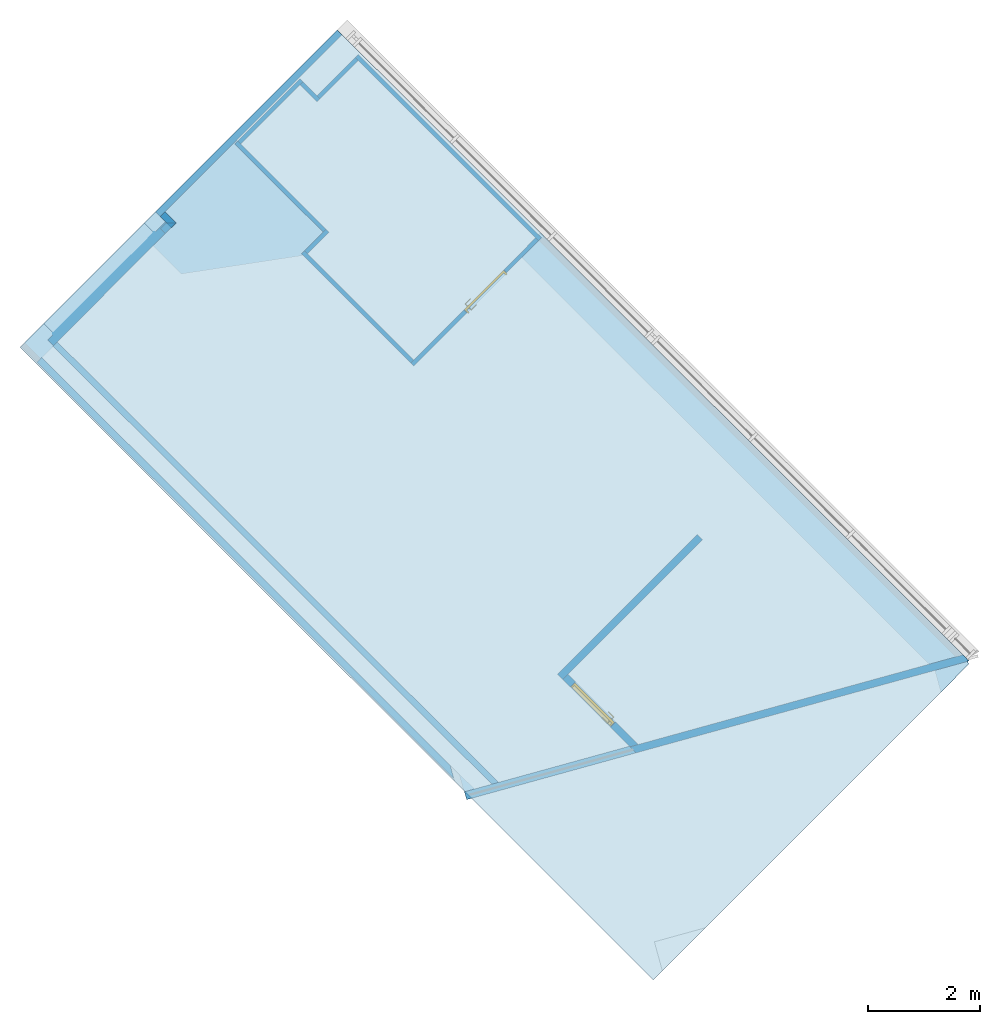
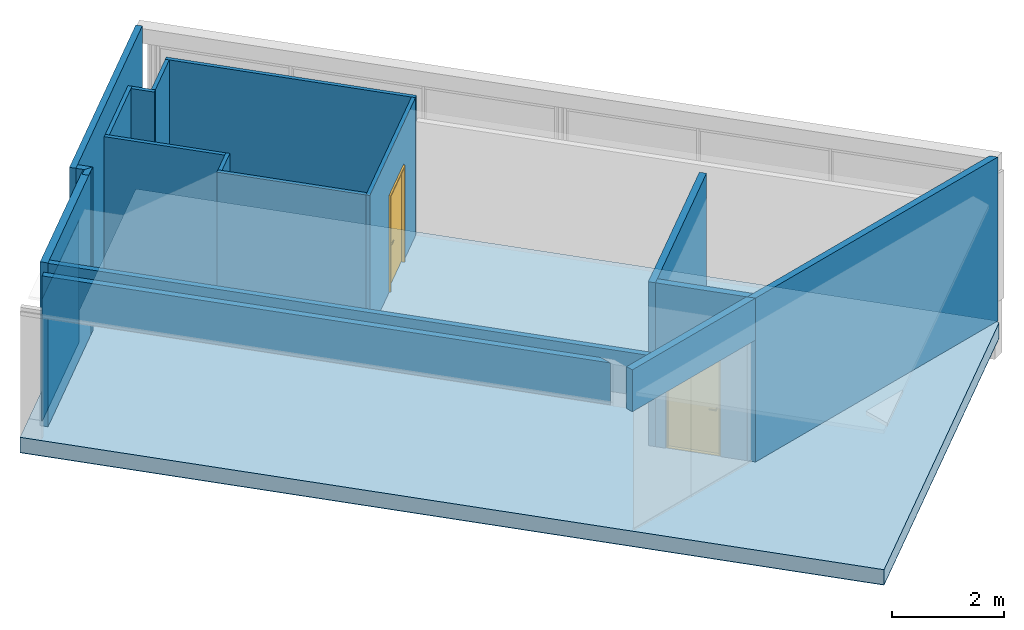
# One storey, part 3 of 6: 20 walls, 4 slabs, 2 doors, 3 openings.
"""IFC2X3 building model written with IfcOpenShell, lengths in millimetres."""

from ifc_helpers import new_model, entity, si_unit, converted_unit, derived_unit, direction, frame, frame_2d, origin, origin_with_axes, origin_2d_with_axis, place, context, subcontext, project, spatial, polyline, rectangle, outline, extrude, faceted_brep, source, transform, mapped, material, material_list, layer, layer_set, layer_usage, type_object, element, fill, save


model = new_model("IFC2X3")

# Units and contexts
model_context = context("Model", 3, precision=0.01, world=origin(), true_north=direction((6.12323399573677e-17, 1.0)))
plan_context = context("Plan", 3, precision=1e-05, world=origin_with_axes())
body_context = subcontext(model_context, "Body", "Model", "MODEL_VIEW")
ifc_project = project(units=[converted_unit("PLANEANGLEUNIT", "DEGREE", entity("IfcPositiveLengthMeasure", 0.0174532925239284), si_unit("PLANEANGLEUNIT", "RADIAN"), dimensions=[0, 0, 0, 0, 0, 0, 0]), si_unit("AREAUNIT", "SQUARE_METRE"), si_unit("LENGTHUNIT", "METRE", prefix="MILLI"), si_unit("MASSUNIT", "GRAM", prefix="KILO"), si_unit("POWERUNIT", "WATT"), si_unit("PRESSUREUNIT", "PASCAL", prefix="KILO"), si_unit("FORCEUNIT", "NEWTON", prefix="KILO"), si_unit("ELECTRICVOLTAGEUNIT", "VOLT"), si_unit("ELECTRICCURRENTUNIT", "AMPERE"), si_unit("THERMODYNAMICTEMPERATUREUNIT", "DEGREE_CELSIUS"), si_unit("TIMEUNIT", "SECOND"), si_unit("VOLUMEUNIT", "CUBIC_METRE"), derived_unit("LINEARVELOCITYUNIT", [(si_unit("LENGTHUNIT", "METRE"), 1), (si_unit("TIMEUNIT", "SECOND"), -1)]), derived_unit("VOLUMETRICFLOWRATEUNIT", [(si_unit("VOLUMEUNIT", "CUBIC_METRE"), 1), (si_unit("TIMEUNIT", "SECOND"), -1)]), derived_unit("THERMALTRANSMITTANCEUNIT", [(si_unit("POWERUNIT", "WATT"), 1), (si_unit("THERMODYNAMICTEMPERATUREUNIT", "KELVIN"), -1), (si_unit("AREAUNIT", "SQUARE_METRE"), -1)]), derived_unit("SOUNDPRESSUREUNIT", [(si_unit("PRESSUREUNIT", "PASCAL"), 1)])], contexts=[model_context, plan_context])

# Site, building, storey
site_placement = place(None, frame((0.0, -2.21771188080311e-09, 0.0), z_axis=(0.0, 0.0, 1.0), x_axis=(0.266093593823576, -0.963947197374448, 0.0)))
site = spatial("IfcSite", under=ifc_project, at=site_placement, Name="ENZV", CompositionType="ELEMENT")
building_placement = place(site_placement, origin_with_axes())
building = spatial("IfcBuilding", under=site, at=building_placement, Name="ZV001", CompositionType="ELEMENT")
storey_placement = place(building_placement, frame((0.0, 0.0, 9300.0), z_axis=(0.0, 0.0, 1.0), x_axis=(1.0, 0.0, 0.0)))
storey = spatial("IfcBuildingStorey", under=building, at=storey_placement, Name="H02", CompositionType="ELEMENT", Elevation=9300.0)

# Slabs
ifc_material_1 = material(Name="Hvit")
ifc_layer_1 = layer(ifc_material_1, 325.0)
ifc_layer_set_1 = layer_set([ifc_layer_1], Name="Floor:Standard 325mm")
slab_type_1 = type_object("IfcSlabType", Name="Floor:Standard 325mm", PredefinedType="FLOOR", material=ifc_layer_set_1)
slab_1_placement = place(storey_placement, origin_with_axes())
element("IfcSlab", 1, at=slab_1_placement, inside=storey, type_object=slab_type_1, Name="Floor:Standard 325mm", ObjectType="Floor:Standard 325mm", PredefinedType="FLOOR", context=body_context, shape_type="Brep", body=[
    faceted_brep([(-264113.047522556, 426855.208712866, -15.0), (-264113.047522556, 426855.208712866, -340.0), (-250352.832725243, 434675.434974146, -340.0), (-250352.832725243, 434675.434974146, -15.0), (-250247.640295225, 434675.434974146, -340.0), (-250247.640295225, 434675.434974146, -15.0), (-246328.485877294, 427779.41882218, -15.0), (-260168.211843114, 419914.004651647, -14.9999999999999), (-260168.211843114, 419914.004651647, -340.0), (-246328.485877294, 427779.41882218, -340.0)], [[[0, 1, 2, 3]], [[4, 5, 3, 2]], [[5, 6, 7, 0, 3]], [[1, 8, 9, 4, 2]], [[6, 5, 4, 9]], [[8, 1, 0, 7]], [[7, 6, 9, 8]]], orient=[[False], [False], [False], [False], [False], [False], [False]]),
])
ifc_material_2 = material(Name="Fliser 600x600mm mørk grå")
ifc_layer_2 = layer(ifc_material_2, 15.0)
ifc_layer_set_2 = layer_set([ifc_layer_2], Name="Floor:ENZV_G04_Flis mørk grå 6x6M")
slab_type_2 = type_object("IfcSlabType", Name="Floor:ENZV_G04_Flis mørk grå 6x6M", PredefinedType="FLOOR", material=ifc_layer_set_2)
slab_2_placement = place(storey_placement, origin_with_axes())
element("IfcSlab", 2, at=slab_2_placement, inside=storey, type_object=slab_type_2, Name="Floor:ENZV_G04_Flis mørk grå 6x6M", ObjectType="Floor:ENZV_G04_Flis mørk grå 6x6M", PredefinedType="FLOOR", context=body_context, shape_type="Brep", body=[
    faceted_brep([(-261714.229501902, 422634.326846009, 0.0), (-261714.229501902, 422634.326846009, -14.9999999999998), (-261503.411934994, 422754.155558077, -14.9999999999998), (-261503.411934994, 422754.155558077, 0.0), (-260253.284899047, 420554.465531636, -14.9999999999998), (-260253.284899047, 420554.465531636, 0.0), (-260464.106435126, 420434.651114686, -14.9999999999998), (-260464.106435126, 420434.651114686, 0.0)], [[[0, 1, 2, 3]], [[3, 2, 4, 5]], [[6, 7, 5, 4]], [[7, 0, 3, 5]], [[1, 6, 4, 2]], [[7, 6, 1, 0]]], orient=[[False], [False], [False], [False], [False], [False]]),
])
ifc_material_3 = material(Name="Betong - Plasstøpt")
ifc_layer_3 = layer(ifc_material_3, 330.0)
ifc_layer_set_3 = layer_set([ifc_layer_3], Name="Floor:Standard 330mm betong")
slab_type_3 = type_object("IfcSlabType", Name="Floor:Standard 330mm betong", PredefinedType="FLOOR", material=ifc_layer_set_3)
for number, where, z_axis, x_axis, name in (
    (3, (0.0, 0.0, 0.0), (0.0, 0.0, 1.0), (1.0, 0.0, 0.0), "Floor:Standard 330mm betong"),
    (4, (0.0, 0.0, 0.0), (0.0, 0.0, 1.0), (1.0, 0.0, 0.0), "Floor:Standard 330mm betong"),
):
    element("IfcSlab", number, at=place(storey_placement, frame(where, z_axis=z_axis, x_axis=x_axis)), inside=storey, type_object=slab_type_3, Name=name, ObjectType="Floor:Standard 330mm betong", PredefinedType="FLOOR", context=body_context, shape_type="Brep", body=[
        faceted_brep([(-264113.047522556, 426855.208712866, 0.0), (-264113.047522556, 426855.208712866, -330.0), (-250352.832725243, 434675.434974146, -330.0), (-250352.832725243, 434675.434974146, 0.0), (-250247.640295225, 434675.434974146, -330.0), (-250247.640295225, 434675.434974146, 0.0), (-246328.485877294, 427779.41882218, -1.13686837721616e-13), (-260168.211843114, 419914.004651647, -1.13686837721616e-13), (-260168.211843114, 419914.004651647, -330.0), (-246328.485877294, 427779.41882218, -330.0)], [[[0, 1, 2, 3]], [[4, 5, 3, 2]], [[5, 6, 7, 0, 3]], [[1, 8, 9, 4, 2]], [[6, 5, 4, 9]], [[8, 1, 0, 7]], [[7, 6, 9, 8]]], orient=[[False], [False], [False], [False], [False], [False], [False]]),
    ])

# Walls
ifc_material_4 = material(Name="A246.Gips 12.5mm fiberarmert -QK5.31112")
ifc_layer_4 = layer(ifc_material_4, 13.0)
ifc_material_5 = material(Name="OSB plate")
ifc_layer_5 = layer(ifc_material_5, 12.0)
ifc_material_6 = material(Name="A242.Stender Lettmetall 95mm -PJ3.111002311")
ifc_layer_6 = layer(ifc_material_6, 70.0)
ifc_layer_7 = layer(ifc_material_5, 12.0)
ifc_layer_8 = layer(ifc_material_4, 13.0)
ifc_layer_set_4 = layer_set([ifc_layer_4, ifc_layer_5, ifc_layer_6, ifc_layer_7, ifc_layer_8], Name="Basic Wall:ENZV_S-UK01_S70_120mm_OSBG")
ifc_layer_usage_1 = layer_usage(ifc_layer_set_4, "AXIS2", "NEGATIVE", 60.0)
wall_type_1 = type_object("IfcWallType", Name="Basic Wall:ENZV_S-UK01_S70_120mm_OSBG", PredefinedType="STANDARD", material=ifc_layer_set_4)
wall_1_placement = place(storey_placement, frame((-259866.534533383, 420187.651644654, 2650.0), z_axis=(0.0, 0.0, 1.0), x_axis=(0.869405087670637, 0.494099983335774, 0.0)))
element("IfcWallStandardCase", 5, at=wall_1_placement, inside=storey, type_object=wall_type_1, material=ifc_layer_usage_1, Name="Basic Wall:ENZV_S-UK01_S70_120mm_OSBG", ObjectType="Basic Wall:ENZV_S-UK01_S70_120mm_OSBG", context=body_context, shape_type="SweptSolid", body=[
    extrude(outline(polyline([(10474.0967859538, -60.0), (10262.9480022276, 60.0), (0.0, 60.0), (0.0, -60.0), (10474.0967859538, -60.0)])), origin(), (0.0, 0.0, 1.0), 909.999999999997),
])
ifc_layer_9 = layer(ifc_material_4, 13.0)
ifc_layer_10 = layer(ifc_material_6, 95.0)
ifc_layer_11 = layer(ifc_material_5, 12.0)
ifc_layer_12 = layer(ifc_material_4, 13.0)
ifc_layer_set_5 = layer_set([ifc_layer_9, ifc_layer_10, ifc_layer_11, ifc_layer_12], Name="Basic Wall:ENZV_IV-UK02B_S95_145mm_OSBG+G")
ifc_layer_usage_2 = layer_usage(ifc_layer_set_5, "AXIS2", "POSITIVE", -66.5)
wall_type_2 = type_object("IfcWallType", Name="Basic Wall:ENZV_IV-UK02B_S95_145mm_OSBG+G", PredefinedType="STANDARD", material=ifc_layer_set_5)
wall_2_placement = place(storey_placement, frame((-250370.362367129, 434703.26588279, 0.0), z_axis=(0.0, 0.0, 1.0), x_axis=(0.0, -1.0, 0.0)))
element("IfcWallStandardCase", 6, at=wall_2_placement, inside=storey, type_object=wall_type_2, material=ifc_layer_usage_2, Name="Basic Wall:ENZV_IV-UK02B_S95_145mm_OSBG+G", ObjectType="Basic Wall:ENZV_IV-UK02B_S95_145mm_OSBG+G", context=body_context, shape_type="SweptSolid", body=[
    extrude(outline(polyline([(6223.46399657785, -66.4999999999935), (6147.87748492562, 66.4999999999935), (0.0, 66.4999999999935), (75.58676286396, -66.4999999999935), (213.6122921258, -66.4999999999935), (6070.48582576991, -66.4999999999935), (6223.46399657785, -66.4999999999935)])), origin(), (0.0, 0.0, 1.0), 3560.0),
])

# Wall, openings, door
ifc_layer_usage_3 = layer_usage(ifc_layer_set_5, "AXIS2", "NEGATIVE", 66.5)
wall_3_placement = place(storey_placement, frame((-251939.289346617, 427702.432216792, 0.0), z_axis=(0.0, 0.0, 1.0), x_axis=(0.869405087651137, 0.494099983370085, 0.0)))
wall_3 = element("IfcWallStandardCase", 7, at=wall_3_placement, inside=storey, type_object=wall_type_2, material=ifc_layer_usage_3, Name="Basic Wall:ENZV_IV-UK02B_S95_145mm_OSBG+G", ObjectType="Basic Wall:ENZV_IV-UK02B_S95_145mm_OSBG+G", context=body_context, shape_type="SweptSolid", body=[
    extrude(outline(polyline([(0.0, -66.4999999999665), (1676.51345879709, -66.4999999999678), (1690.31600052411, -66.4999999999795), (1765.9025121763, 66.5000000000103), (5.25669388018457e-09, 66.4999999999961), (0.0, -66.4999999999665)])), origin(), (0.0, 0.0, 1.0), 3560.0),
])
opening_1_placement = place(wall_3_placement, frame((187.000000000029, -66.5, 0.0), z_axis=(0.0, 0.0, 1.0), x_axis=(1.0, 0.0, 0.0)))
opening_1 = element("IfcOpeningElement", 8, at=opening_1_placement, cuts=wall_3, Name="A244-Enfløyet1:DT03_Tredør 10x21M:1", ObjectType="Opening", context=body_context, shape_type="SweptSolid", body=[
    extrude(rectangle(XDim=2109.99999999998, YDim=1010.0, at=frame_2d((1054.99999999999, 505.000000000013), x_axis=(1.0, 0.0))), frame((0.0, 0.0, 0.0), z_axis=(0.0, 1.0, 0.0), x_axis=(0.0, 0.0, 1.0)), (0.0, 0.0, 1.0), 133.0),
])
opening_2_placement = place(wall_3_placement, frame((7709.53529149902, -496329.869246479, 0.0), z_axis=(0.0, 0.0, 1.0), x_axis=(0.869405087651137, -0.494099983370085, 0.0)))
element("IfcOpeningElement", 9, at=opening_2_placement, cuts=wall_3, Name="Basic Wall:ENZV_IV-UK02B_S95_145mm_OSBG+G", ObjectType="Opening", context=body_context, shape_type="SweptSolid", body=[
    extrude(rectangle(XDim=2109.99999999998, YDim=1010.0, at=frame_2d((-5.6843418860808e-13, -1.50635059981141e-11), x_axis=(1.0, 0.0))), frame((-250551.795002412, 426661.560613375, 1055.0), z_axis=(-0.494099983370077, 0.869405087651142, 0.0), x_axis=(0.0, 0.0, 1.0)), (0.0, 0.0, 1.0), 3048.00000000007),
])
ifc_material_7 = material(Name="Rustfritt Stål")
ifc_material_8 = material(Name="Høytrykkslaminat")
ifc_material_9 = material(Name="Uten terskel")
ifc_material_10 = material(Name="Tre")
ifc_material_list_1 = material_list([ifc_material_7, ifc_material_8, ifc_material_9, ifc_material_10])
door_style_1 = type_object("IfcDoorStyle", Name="A244-Enfløyet1:DT03_Tredør 10x21M", ConstructionType="USERDEFINED", OperationType="SINGLE_SWING_LEFT", ParameterTakesPrecedence=False, Sizeable=False, material=ifc_material_list_1)
shared_shape_1 = source(origin(), body_context, "Body", "SweptSolid", [
    extrude(outline(polyline([(-33.3333333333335, -50.8333333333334), (24.166666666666, -50.8333333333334), (24.1666666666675, 86.6666666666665), (9.16666666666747, 86.6666666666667), (9.16666666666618, -35.8333333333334), (-33.3333333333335, -35.8333333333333), (-33.3333333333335, -50.8333333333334)])), frame((879.666666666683, 131.941039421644, 970.500000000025), z_axis=(0.0, 0.0, 1.0), x_axis=(0.0, 1.0, 0.0)), (0.0, 0.0, 1.0), 14.9999999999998),
    extrude(rectangle(XDim=5.6, YDim=50.0000000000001, at=frame_2d((1.99840144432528e-15, 3.37507799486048e-14), x_axis=(1.0, 0.0))), frame((923.0, 95.8000000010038, 840.986295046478), z_axis=(0.0, 0.0, 1.0), x_axis=(0.0, -1.0, 0.0)), (0.0, 0.0, 1.0), 159.01370495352),
    extrude(outline(polyline([(-50.8333333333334, -33.3333333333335), (-35.8333333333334, -33.3333333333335), (-35.8333333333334, 9.16666666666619), (86.6666666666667, 9.16666666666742), (86.6666666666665, 24.1666666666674), (-50.8333333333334, 24.166666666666), (-50.8333333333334, -33.3333333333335)])), frame((879.666666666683, 14.0589605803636, 970.500000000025), z_axis=(0.0, 0.0, 1.0), x_axis=(-1.0, 0.0, 0.0)), (0.0, 0.0, 1.0), 14.9999999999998),
    extrude(rectangle(XDim=49.9999999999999, YDim=5.6, at=origin_2d_with_axis()), frame((923.0, 50.2000000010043, 840.986295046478)), (0.0, 0.0, 1.0), 159.01370495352),
    extrude(rectangle(XDim=945.999999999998, YDim=39.9999999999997, at=origin_2d_with_axis()), frame((505.0, 73.0000000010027, 10.0), z_axis=(0.0, 0.0, 1.0), x_axis=(-1.0, 0.0, 0.0)), (0.0, 0.0, 1.0), 2057.99999999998),
    extrude(rectangle(XDim=99.9999999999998, YDim=945.999999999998, at=frame_2d((0.0, 5.6843418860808e-14), x_axis=(1.0, 0.0))), frame((505.0, 43.0000000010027, 0.0), z_axis=(0.0, 0.0, 1.0), x_axis=(0.0, -1.0, 0.0)), (0.0, 0.0, 1.0), 9.99999999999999),
    extrude(outline(polyline([(473.0, -1039.49999999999), (495.0, -1039.49999999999), (495.0, 1050.49999999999), (-495.0, 1050.49999999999), (-495.0, -1039.49999999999), (-473.0, -1039.49999999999), (-473.0, 1028.49999999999), (473.0, 1028.49999999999), (473.0, -1039.49999999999)])), frame((505.0, 93.0000000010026, 1039.49999999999), z_axis=(0.0, -1.0, 0.0), x_axis=(1.0, 0.0, 0.0)), (0.0, 0.0, 1.0), 99.9999999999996),
])
door_1_placement = place(opening_1_placement, frame((-2.91038304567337e-11, 20.0, 0.0), z_axis=(0.0, 0.0, 1.0), x_axis=(1.0, 0.0, 0.0)))
door_1 = element("IfcDoor", 10, at=door_1_placement, inside=storey, type_object=door_style_1, material=ifc_material_list_1, Name="A244-Enfløyet1:DT03_Tredør 10x21M", ObjectType="A244-Enfløyet1:DT03_Tredør 10x21M", OverallHeight=2109.99999999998, OverallWidth=1010.00000000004, context=body_context, shape_type="MappedRepresentation", body=[
    mapped(shared_shape_1, transform((0.0, 0.0, 0.0), scale=1.0)),
])
fill(opening_1, door_1)

# Walls
ifc_layer_13 = layer(ifc_material_4, 13.0)
ifc_layer_14 = layer(ifc_material_5, 12.0)
ifc_layer_15 = layer(ifc_material_6, 95.0)
ifc_layer_16 = layer(ifc_material_5, 12.0)
ifc_layer_17 = layer(ifc_material_4, 13.0)
ifc_layer_set_6 = layer_set([ifc_layer_13, ifc_layer_14, ifc_layer_15, ifc_layer_16, ifc_layer_17], Name="Basic Wall:ENZV_S-UK03_S95_145mm_OSBG")
ifc_layer_usage_4 = layer_usage(ifc_layer_set_6, "AXIS2", "NEGATIVE", 72.5)
wall_type_3 = type_object("IfcWallType", Name="Basic Wall:ENZV_S-UK03_S95_145mm_OSBG", PredefinedType="STANDARD", material=ifc_layer_set_6)
wall_4_placement = place(storey_placement, frame((-250376.362367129, 428555.388397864, 2650.0), z_axis=(0.0, 0.0, 1.0), x_axis=(0.0, -1.0, 0.0)))
element("IfcWallStandardCase", 11, at=wall_4_placement, inside=storey, type_object=wall_type_3, material=ifc_layer_usage_4, Name="Basic Wall:ENZV_S-UK03_S95_145mm_OSBG", ObjectType="Basic Wall:ENZV_S-UK03_S95_145mm_OSBG", context=body_context, shape_type="SweptSolid", body=[
    extrude(outline(polyline([(3124.65001107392, -72.4999999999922), (3124.65001107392, 72.4999999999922), (0.0, 72.4999999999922), (82.4063472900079, -72.4999999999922), (2496.5901199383, -72.4999999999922), (2620.81299547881, -72.4999999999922), (3124.65001107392, -72.4999999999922)])), origin(), (0.0, 0.0, 1.0), 910.000000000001),
])
ifc_layer_18 = layer(ifc_material_4, 13.0)
ifc_layer_19 = layer(ifc_material_5, 12.0)
ifc_layer_20 = layer(ifc_material_6, 95.0)
ifc_layer_set_7 = layer_set([ifc_layer_18, ifc_layer_19, ifc_layer_20], Name="Basic Wall:ENZV_PV-UK02_S95_120mm_OSBG")
ifc_layer_usage_5 = layer_usage(ifc_layer_set_7, "AXIS2", "POSITIVE", -60.0)
wall_type_4 = type_object("IfcWallType", Name="Basic Wall:ENZV_PV-UK02_S95_120mm_OSBG", PredefinedType="STANDARD", material=ifc_layer_set_7)
wall_5_placement = place(storey_placement, frame((-261800.365275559, 422907.321148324, 0.0), z_axis=(0.0, 0.0, 1.0), x_axis=(-0.494101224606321, 0.869404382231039, 0.0)))
element("IfcWallStandardCase", 12, at=wall_5_placement, inside=storey, type_object=wall_type_4, material=ifc_layer_usage_5, Name="Basic Wall:ENZV_PV-UK02_S95_120mm_OSBG", ObjectType="Basic Wall:ENZV_PV-UK02_S95_120mm_OSBG", context=body_context, shape_type="SweptSolid", body=[
    extrude(rectangle(XDim=4575.00987895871, YDim=120.000000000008, at=frame_2d((2287.50493947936, 8.10018718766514e-13), x_axis=(-1.0, 0.0))), origin(), (0.0, 0.0, 1.0), 3560.0),
])
ifc_layer_usage_6 = layer_usage(ifc_layer_set_7, "AXIS2", "POSITIVE", -60.0)
wall_6_placement = place(storey_placement, frame((-261486.163561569, 422913.444100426, 0.0), z_axis=(0.0, 0.0, 1.0), x_axis=(-0.49409998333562, 0.869405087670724, 0.0)))
element("IfcWallStandardCase", 13, at=wall_6_placement, inside=storey, type_object=wall_type_4, material=ifc_layer_usage_6, Name="Basic Wall:ENZV_PV-UK02_S95_120mm_OSBG", ObjectType="Basic Wall:ENZV_PV-UK02_S95_120mm_OSBG", context=body_context, shape_type="SweptSolid", body=[
    extrude(outline(polyline([(269.935688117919, -60.0), (149.932042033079, 60.0), (0.0, 60.0), (0.0, -60.0), (269.935688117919, -60.0)])), origin(), (0.0, 0.0, 1.0), 3560.0),
])
ifc_layer_usage_7 = layer_usage(ifc_layer_set_7, "AXIS2", "NEGATIVE", 60.0)
wall_7_placement = place(storey_placement, frame((-261777.850313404, 422989.133647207, 0.0), z_axis=(0.0, 0.0, 1.0), x_axis=(0.869390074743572, 0.494126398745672, 0.0)))
element("IfcWallStandardCase", 14, at=wall_7_placement, inside=storey, type_object=wall_type_4, material=ifc_layer_usage_7, Name="Basic Wall:ENZV_PV-UK02_S95_120mm_OSBG", ObjectType="Basic Wall:ENZV_PV-UK02_S95_120mm_OSBG", context=body_context, shape_type="SweptSolid", body=[
    extrude(outline(polyline([(156.193919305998, -60.0), (276.197565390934, 60.0), (0.0034747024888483, 60.0), (0.0, -60.0), (132.493629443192, -60.0), (156.193919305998, -60.0)])), origin(), (0.0, 0.0, 1.0), 3560.0),
])
ifc_layer_usage_8 = layer_usage(ifc_layer_set_7, "AXIS2", "NEGATIVE", 60.0)
wall_8_placement = place(storey_placement, frame((-261777.848877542, 422989.134463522, 0.0), z_axis=(0.0, 0.0, 1.0), x_axis=(0.869405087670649, 0.494099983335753, 0.0)))
element("IfcWallStandardCase", 15, at=wall_8_placement, inside=storey, type_object=wall_type_4, material=ifc_layer_usage_8, Name="Basic Wall:ENZV_PV-UK02_S95_120mm_OSBG", ObjectType="Basic Wall:ENZV_PV-UK02_S95_120mm_OSBG", context=body_context, shape_type="SweptSolid", body=[
    extrude(rectangle(XDim=280.003731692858, YDim=120.000000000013, at=frame_2d((140.001865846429, -9.76996261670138e-12), x_axis=(-1.0, 0.0))), origin(), (0.0, 0.0, 1.0), 3560.0),
])
ifc_material_11 = material(Name="Fliser 50x50mm hvit")
ifc_layer_21 = layer(ifc_material_11, 10.0)
ifc_layer_set_8 = layer_set([ifc_layer_21], Name="Basic Wall:ENZV_O-Flis type 1 - 50x50mm")
ifc_layer_usage_9 = layer_usage(ifc_layer_set_8, "AXIS2", "NEGATIVE", 5.0)
wall_type_5 = type_object("IfcWallType", Name="Basic Wall:ENZV_O-Flis type 1 - 50x50mm", PredefinedType="STANDARD", material=ifc_layer_set_8)
wall_9_placement = place(storey_placement, frame((-260243.995288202, 420548.23919099, 0.0), z_axis=(0.0, 0.0, 1.0), x_axis=(-0.494099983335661, 0.869405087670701, 0.0)))
element("IfcWallStandardCase", 16, at=wall_9_placement, inside=storey, type_object=wall_type_5, material=ifc_layer_usage_9, Name="Basic Wall:ENZV_O-Flis type 1 - 50x50mm", ObjectType="Basic Wall:ENZV_O-Flis type 1 - 50x50mm", context=body_context, shape_type="SweptSolid", body=[
    extrude(outline(polyline([(-6.74414823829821, -1275.05642729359), (3.25585178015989, -1275.05642729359), (3.25645945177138, -1265.0564272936), (3.41020721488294, 1265.05622474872), (3.41081488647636, 1275.05622473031), (-6.58918509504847, 1275.05683240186), (-6.74414823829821, -1275.05642729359)])), frame((1275.05642964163, 1.66666666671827, 0.0), z_axis=(0.0, 0.0, 1.0), x_axis=(-6.07671609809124e-05, 1.0, 0.0)), (0.0, 0.0, 1.0), 2650.0),
])
ifc_layer_22 = layer(ifc_material_4, 13.0)
ifc_layer_23 = layer(ifc_material_5, 12.0)
ifc_layer_24 = layer(ifc_material_6, 95.0)
ifc_layer_25 = layer(ifc_material_5, 12.0)
ifc_layer_26 = layer(ifc_material_4, 13.0)
ifc_layer_set_9 = layer_set([ifc_layer_22, ifc_layer_23, ifc_layer_24, ifc_layer_25, ifc_layer_26], Name="Basic Wall:ENZV_IV-UK02_S95_145mm_OSBG")
ifc_layer_usage_10 = layer_usage(ifc_layer_set_9, "AXIS2", "NEGATIVE", 72.5)
wall_type_6 = type_object("IfcWallType", Name="Basic Wall:ENZV_IV-UK02_S95_145mm_OSBG", PredefinedType="STANDARD", material=ifc_layer_set_9)
wall_10_placement = place(storey_placement, frame((-260104.971896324, 420460.468201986, 0.0), z_axis=(0.0, 0.0, 1.0), x_axis=(-0.49409998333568, 0.86940508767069, 0.0)))
element("IfcWallStandardCase", 17, at=wall_10_placement, inside=storey, type_object=wall_type_6, material=ifc_layer_usage_10, Name="Basic Wall:ENZV_IV-UK02_S95_145mm_OSBG", ObjectType="Basic Wall:ENZV_IV-UK02_S95_145mm_OSBG", context=body_context, shape_type="SweptSolid", body=[
    extrude(rectangle(XDim=2965.00380134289, YDim=145.000000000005, at=frame_2d((1482.50190067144, -2.66453525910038e-12), x_axis=(-1.0, 0.0))), origin(), (0.0, 0.0, 1.0), 3560.0),
])
ifc_layer_27 = layer(ifc_material_4, 13.0)
ifc_layer_28 = layer(ifc_material_6, 95.0)
ifc_layer_29 = layer(ifc_material_5, 12.0)
ifc_layer_30 = layer(ifc_material_4, 13.0)
ifc_layer_set_10 = layer_set([ifc_layer_27, ifc_layer_28, ifc_layer_29, ifc_layer_30], Name="Basic Wall:ENZV_IV-UK02B_S95_133mm_OSBG+G m wrap")
ifc_layer_usage_11 = layer_usage(ifc_layer_set_10, "AXIS2", "NEGATIVE", 66.5)
wall_type_7 = type_object("IfcWallType", Name="Basic Wall:ENZV_IV-UK02B_S95_133mm_OSBG+G m wrap", PredefinedType="STANDARD", material=ifc_layer_set_10)
wall_11_placement = place(storey_placement, frame((-253703.473639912, 430672.05547052, 0.0), z_axis=(0.0, 0.0, 1.0), x_axis=(0.494099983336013, -0.869405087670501, 0.0)))
element("IfcWallStandardCase", 18, at=wall_11_placement, inside=storey, type_object=wall_type_7, material=ifc_layer_usage_11, Name="Basic Wall:ENZV_IV-UK02B_S95_133mm_OSBG+G m wrap", ObjectType="Basic Wall:ENZV_IV-UK02B_S95_133mm_OSBG+G m wrap", context=body_context, shape_type="SweptSolid", body=[
    extrude(rectangle(XDim=3519.98899518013, YDim=132.999999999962, at=frame_2d((1759.99449759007, 9.76285718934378e-12), x_axis=(-1.0, 0.0))), origin(), (0.0, 0.0, 1.0), 3560.0),
])
ifc_material_12 = material(Name="Vegg")
ifc_layer_31 = layer(ifc_material_12, 75.0)
ifc_layer_set_11 = layer_set([ifc_layer_31], Name="Basic Wall:Standard - 75mm Kjøleromsvegg")
ifc_layer_usage_12 = layer_usage(ifc_layer_set_11, "AXIS2", "NEGATIVE", 37.5)
wall_type_8 = type_object("IfcWallType", Name="Basic Wall:Standard - 75mm Kjøleromsvegg", PredefinedType="STANDARD", material=ifc_layer_set_11)
wall_12_placement = place(storey_placement, frame((-263570.431556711, 427064.350696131, 0.0), z_axis=(0.0, 0.0, 1.0), x_axis=(0.869390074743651, 0.494126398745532, 0.0)))
element("IfcWallStandardCase", 19, at=wall_12_placement, inside=storey, type_object=wall_type_8, material=ifc_layer_usage_12, Name="Basic Wall:Standard - 75mm Kjøleromsvegg", ObjectType="Basic Wall:Standard - 75mm Kjøleromsvegg", context=body_context, shape_type="SweptSolid", body=[
    extrude(rectangle(XDim=4610.90063701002, YDim=75.0000000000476, at=frame_2d((2305.45031850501, -7.25108861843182e-12), x_axis=(-1.0, 0.0))), origin(), (0.0, 0.0, 1.0), 3000.0),
])

# Wall, opening, door
ifc_layer_usage_13 = layer_usage(ifc_layer_set_11, "AXIS2", "NEGATIVE", 37.5)
wall_13_placement = place(storey_placement, frame((-259575.835239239, 429291.586419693, 0.0), z_axis=(0.0, 0.0, 1.0), x_axis=(0.494099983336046, -0.869405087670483, 0.0)))
wall_13 = element("IfcWallStandardCase", 20, at=wall_13_placement, inside=storey, type_object=wall_type_8, material=ifc_layer_usage_13, Name="Basic Wall:Standard - 75mm Kjøleromsvegg", ObjectType="Basic Wall:Standard - 75mm Kjøleromsvegg", context=body_context, shape_type="SweptSolid", body=[
    extrude(rectangle(XDim=3144.99971471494, YDim=74.9999999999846, at=frame_2d((1572.49985735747, -6.10000938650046e-12), x_axis=(-1.0, 0.0))), origin(), (0.0, 0.0, 1.0), 3000.0),
])
opening_3_placement = place(wall_13_placement, frame((1813.10409762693, 37.5, 0.0), z_axis=(0.0, 0.0, 1.0), x_axis=(1.0, 0.0, 0.0)))
opening_3 = element("IfcOpeningElement", 21, at=opening_3_placement, cuts=wall_13, Name="Enfløyet:Dør  10x21M:1", ObjectType="Opening", context=body_context, shape_type="SweptSolid", body=[
    extrude(rectangle(XDim=2109.99999999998, YDim=1010.0, at=frame_2d((1054.99999999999, 505.0), x_axis=(1.0, 0.0))), frame((0.0, 0.0, 0.0), z_axis=(0.0, -1.0, 0.0), x_axis=(0.0, 0.0, 1.0)), (0.0, 0.0, 1.0), 75.0),
])
ifc_material_list_2 = material_list([ifc_material_7, ifc_material_1])
door_style_2 = type_object("IfcDoorStyle", Name="Enfløyet:Dør  10x21M", ConstructionType="NOTDEFINED", OperationType="SINGLE_SWING_RIGHT", ParameterTakesPrecedence=False, Sizeable=False, material=ifc_material_list_2)
shared_shape_2 = source(origin(), body_context, "Body", "SweptSolid", [
    extrude(outline(polyline([(-50.8333333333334, -33.3333333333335), (-35.8333333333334, -33.3333333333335), (-35.8333333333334, 9.1666666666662), (86.6666666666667, 9.16666666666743), (86.6666666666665, 24.1666666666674), (-50.8333333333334, 24.166666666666), (-50.8333333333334, -33.3333333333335)])), frame((138.333333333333, 113.941039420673, 970.500000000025)), (0.0, 0.0, 1.0), 14.9999999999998),
    extrude(rectangle(XDim=49.9999999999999, YDim=5.6, at=frame_2d((-3.37507799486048e-14, -2.22044604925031e-15), x_axis=(1.0, 0.0))), frame((95.0, 77.8000000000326, 840.986295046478), z_axis=(0.0, 0.0, 1.0), x_axis=(-1.0, 0.0, 0.0)), (0.0, 0.0, 1.0), 159.01370495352),
    extrude(outline(polyline([(-33.3333333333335, -50.8333333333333), (24.166666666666, -50.8333333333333), (24.1666666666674, 86.6666666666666), (9.16666666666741, 86.6666666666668), (9.1666666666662, -35.8333333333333), (-33.3333333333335, -35.8333333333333), (-33.3333333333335, -50.8333333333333)])), frame((138.333333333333, -3.94103942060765, 970.500000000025), z_axis=(0.0, 0.0, 1.0), x_axis=(0.0, -1.0, 0.0)), (0.0, 0.0, 1.0), 14.9999999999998),
    extrude(rectangle(XDim=5.6, YDim=50.0000000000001, at=frame_2d((-8.88178419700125e-16, 0.0), x_axis=(1.0, 0.0))), frame((95.0, 32.200000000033, 840.986295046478), z_axis=(0.0, 0.0, 1.0), x_axis=(0.0, 1.0, 0.0)), (0.0, 0.0, 1.0), 159.01370495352),
    extrude(rectangle(XDim=39.9999999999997, YDim=929.999999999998, at=origin_2d_with_axis()), frame((505.0, 55.0, 10.0), z_axis=(0.0, 0.0, 1.0), x_axis=(0.0, -1.0, 0.0)), (0.0, 0.0, 1.0), 2049.99999999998),
    extrude(outline(polyline([(-1037.49999999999, -495.0), (1052.49999999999, -495.0), (1052.49999999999, 495.0), (-1037.49999999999, 495.0), (-1037.49999999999, 465.0), (1022.49999999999, 465.0), (1022.49999999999, -465.0), (-1037.49999999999, -465.0), (-1037.49999999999, -495.0)])), frame((505.0, -25.0, 1037.49999999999), z_axis=(0.0, 1.0, 0.0), x_axis=(0.0, 0.0, 1.0)), (0.0, 0.0, 1.0), 99.9999999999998),
])
door_2_placement = place(opening_3_placement, frame((0.0, 0.0, 0.0), z_axis=(0.0, 0.0, 1.0), x_axis=(-1.0, 0.0, 0.0)))
door_2 = element("IfcDoor", 22, at=door_2_placement, inside=storey, type_object=door_style_2, material=ifc_material_list_2, Name="Enfløyet:Dør  10x21M", ObjectType="Enfløyet:Dør  10x21M", OverallHeight=2109.99999999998, OverallWidth=1009.99999999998, context=body_context, shape_type="MappedRepresentation", body=[
    mapped(shared_shape_2, transform((0.0, 0.0, 0.0), scale=1.0)),
])
fill(opening_3, door_2)

# Walls
ifc_layer_usage_14 = layer_usage(ifc_layer_set_11, "AXIS2", "NEGATIVE", 37.5)
wall_14_placement = place(storey_placement, frame((-258073.022377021, 426571.381688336, 0.0), z_axis=(0.0, 0.0, 1.0), x_axis=(-0.869405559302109, -0.494099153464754, 0.0)))
element("IfcWallStandardCase", 23, at=wall_14_placement, inside=storey, type_object=wall_type_8, material=ifc_layer_usage_14, Name="Basic Wall:Standard - 75mm Kjøleromsvegg", ObjectType="Basic Wall:Standard - 75mm Kjøleromsvegg", context=body_context, shape_type="SweptSolid", body=[
    extrude(rectangle(XDim=2744.63584760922, YDim=74.9999999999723, at=frame_2d((1372.31792380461, 1.05906394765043e-11), x_axis=(-1.0, 0.0))), origin(), (0.0, 0.0, 1.0), 3000.0),
])
ifc_layer_usage_15 = layer_usage(ifc_layer_set_11, "AXIS2", "NEGATIVE", 37.5)
wall_15_placement = place(storey_placement, frame((-260445.150050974, 425266.390866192, 0.0), z_axis=(0.0, 0.0, 1.0), x_axis=(-0.49409915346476, 0.869405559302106, 0.0)))
element("IfcWallStandardCase", 24, at=wall_15_placement, inside=storey, type_object=wall_type_8, material=ifc_layer_usage_15, Name="Basic Wall:Standard - 75mm Kjøleromsvegg", ObjectType="Basic Wall:Standard - 75mm Kjøleromsvegg", context=body_context, shape_type="SweptSolid", body=[
    extrude(rectangle(XDim=545.587302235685, YDim=74.9999999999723, at=frame_2d((272.793651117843, -2.04991579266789e-12), x_axis=(-1.0, 0.0))), origin(), (0.0, 0.0, 1.0), 3000.0),
])
ifc_layer_usage_16 = layer_usage(ifc_layer_set_11, "AXIS2", "NEGATIVE", 37.5)
wall_16_placement = place(storey_placement, frame((-260728.798265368, 425689.596073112, 0.0), z_axis=(0.0, 0.0, 1.0), x_axis=(-0.869405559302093, -0.494099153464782, 0.0)))
element("IfcWallStandardCase", 25, at=wall_16_placement, inside=storey, type_object=wall_type_8, material=ifc_layer_usage_16, Name="Basic Wall:Standard - 75mm Kjøleromsvegg", ObjectType="Basic Wall:Standard - 75mm Kjøleromsvegg", context=body_context, shape_type="SweptSolid", body=[
    extrude(rectangle(XDim=2220.91945515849, YDim=75.0000000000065, at=frame_2d((1110.45972757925, -1.33297817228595e-11), x_axis=(-1.0, 0.0))), origin(), (0.0, 0.0, 1.0), 3000.0),
])
ifc_layer_usage_17 = layer_usage(ifc_layer_set_11, "AXIS2", "NEGATIVE", 37.5)
wall_17_placement = place(storey_placement, frame((-262645.60397854, 424643.373046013, 0.0), z_axis=(0.0, 0.0, 1.0), x_axis=(-0.494099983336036, 0.869405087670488, 0.0)))
element("IfcWallStandardCase", 26, at=wall_17_placement, inside=storey, type_object=wall_type_8, material=ifc_layer_usage_17, Name="Basic Wall:Standard - 75mm Kjøleromsvegg", ObjectType="Basic Wall:Standard - 75mm Kjøleromsvegg", context=body_context, shape_type="SweptSolid", body=[
    extrude(rectangle(XDim=1565.32090153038, YDim=74.9999999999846, at=frame_2d((782.660450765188, -7.7946538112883e-12), x_axis=(-1.0, 0.0))), origin(), (0.0, 0.0, 1.0), 3000.0),
])
ifc_layer_usage_18 = layer_usage(ifc_layer_set_11, "AXIS2", "NEGATIVE", 37.5)
wall_18_placement = place(storey_placement, frame((-263367.8985603, 425990.196497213, 0.0), z_axis=(0.0, 0.0, 1.0), x_axis=(0.86939007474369, 0.494126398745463, 0.0)))
element("IfcWallStandardCase", 27, at=wall_18_placement, inside=storey, type_object=wall_type_8, material=ifc_layer_usage_18, Name="Basic Wall:Standard - 75mm Kjøleromsvegg", ObjectType="Basic Wall:Standard - 75mm Kjøleromsvegg", context=body_context, shape_type="SweptSolid", body=[
    extrude(rectangle(XDim=429.658633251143, YDim=75.0000000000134, at=frame_2d((214.829316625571, -9.09139430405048e-12), x_axis=(-1.0, 0.0))), origin(), (0.0, 0.0, 1.0), 3000.0),
])
ifc_layer_usage_19 = layer_usage(ifc_layer_set_11, "AXIS2", "NEGATIVE", 37.5)
wall_19_placement = place(storey_placement, frame((-263045.488913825, 426216.573567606, 0.0), z_axis=(0.0, 0.0, 1.0), x_axis=(-0.494099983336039, 0.869405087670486, 0.0)))
element("IfcWallStandardCase", 28, at=wall_19_placement, inside=storey, type_object=wall_type_8, material=ifc_layer_usage_19, Name="Basic Wall:Standard - 75mm Kjøleromsvegg", ObjectType="Basic Wall:Standard - 75mm Kjøleromsvegg", context=body_context, shape_type="SweptSolid", body=[
    extrude(rectangle(XDim=958.938178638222, YDim=74.9999999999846, at=frame_2d((479.469089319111, 3.33244543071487e-12), x_axis=(-1.0, 0.0))), origin(), (0.0, 0.0, 1.0), 3000.0),
])
ifc_layer_32 = layer(ifc_material_4, 13.0)
ifc_layer_33 = layer(ifc_material_5, 12.0)
ifc_layer_34 = layer(ifc_material_6, 70.0)
ifc_layer_35 = layer(ifc_material_4, 13.0)
ifc_layer_set_12 = layer_set([ifc_layer_32, ifc_layer_33, ifc_layer_34, ifc_layer_35], Name="Basic Wall:ENZV_S-UK01B_S70_108mm_GOSBG")
ifc_layer_usage_20 = layer_usage(ifc_layer_set_12, "AXIS2", "NEGATIVE", 54.0)
wall_type_9 = type_object("IfcWallType", Name="Basic Wall:ENZV_S-UK01B_S70_108mm_GOSBG", PredefinedType="STANDARD", material=ifc_layer_set_12)
wall_20_placement = place(storey_placement, frame((-260062.757988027, 420532.921176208, 2650.0), z_axis=(0.0, 0.0, 1.0), x_axis=(0.869405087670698, 0.494099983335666, 0.0)))
element("IfcWallStandardCase", 29, at=wall_20_placement, inside=storey, type_object=wall_type_9, material=ifc_layer_usage_20, Name="Basic Wall:ENZV_S-UK01B_S70_108mm_GOSBG", ObjectType="Basic Wall:ENZV_S-UK01B_S70_108mm_GOSBG", context=body_context, shape_type="SweptSolid", body=[
    extrude(outline(polyline([(11027.3270282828, -54.0), (11088.7055490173, 54.0), (0.0, 54.0), (0.0, -54.0), (11027.3270282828, -54.0)])), origin(), (0.0, 0.0, 1.0), 910.000000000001),
])

save(model, "model.ifc")
